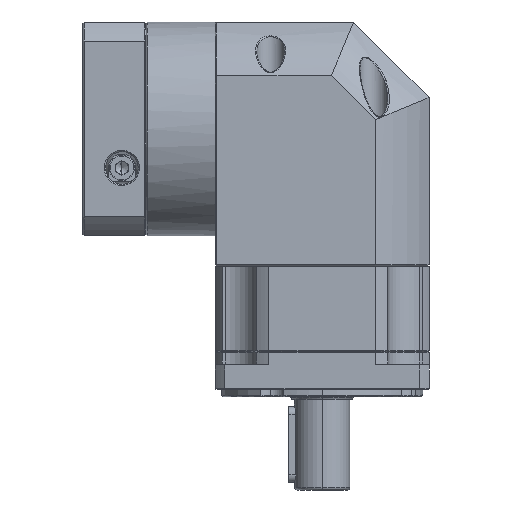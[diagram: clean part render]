
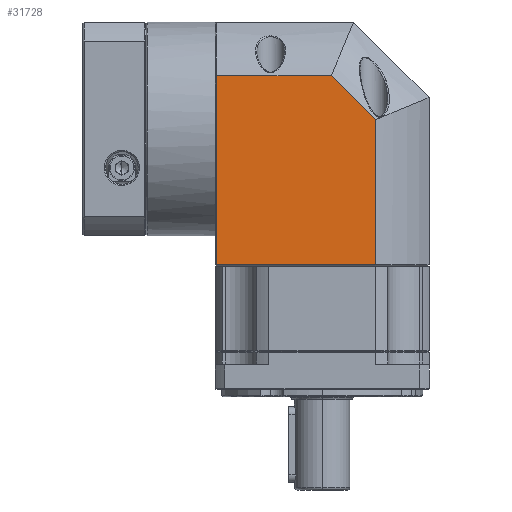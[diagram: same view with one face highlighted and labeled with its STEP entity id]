
A CAD part, left-side view. The second image highlights one B-rep face of the part: STEP entity #31728.
In plain terms, the highlighted planar face has unit normal (-1, 0, 0).
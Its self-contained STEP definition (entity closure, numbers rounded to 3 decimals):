
#5016 = ORIENTED_EDGE ( 'NONE', *, *, #120924, .F. ) ;
#12175 = CARTESIAN_POINT ( 'NONE',  ( -102.869, -0.075, 72.021 ) ) ;
#13969 = LINE ( 'NONE', #12175, #52545 ) ;
#14043 = EDGE_LOOP ( 'NONE', ( #99829, #5016, #90180, #108371, #82236 ) ) ;
#14217 = CARTESIAN_POINT ( 'NONE',  ( -102.869, 63.639, 47.234 ) ) ;
#18158 = EDGE_CURVE ( 'NONE', #44373, #114818, #64940, .T. ) ;
#18648 = CARTESIAN_POINT ( 'NONE',  ( -102.869, 63.139, 68.521 ) ) ;
#22732 = VERTEX_POINT ( 'NONE', #115053 ) ;
#25144 = CARTESIAN_POINT ( 'NONE',  ( -102.869, 63.139, -27.979 ) ) ;
#27680 = EDGE_CURVE ( 'NONE', #126006, #22732, #43989, .T. ) ;
#31187 = VECTOR ( 'NONE', #93795, 1000. ) ;
#31728 = ADVANCED_FACE ( 'NONE', ( #127706 ), #99268, .F. ) ;
#43989 = LINE ( 'NONE', #92857, #126491 ) ;
#44373 = VERTEX_POINT ( 'NONE', #109853 ) ;
#46133 = CARTESIAN_POINT ( 'NONE',  ( -102.869, -0.075, 29.703 ) ) ;
#48123 = VECTOR ( 'NONE', #132589, 1000. ) ;
#52545 = VECTOR ( 'NONE', #56269, 1000. ) ;
#55791 = CARTESIAN_POINT ( 'NONE',  ( -102.869, 17.456, 47.234 ) ) ;
#56269 = DIRECTION ( 'NONE',  ( 0., 0., -1. ) ) ;
#58298 = DIRECTION ( 'NONE',  ( 1., 0., 0. ) ) ;
#59077 = VERTEX_POINT ( 'NONE', #73848 ) ;
#64940 = LINE ( 'NONE', #55791, #90148 ) ;
#71678 = DIRECTION ( 'NONE',  ( 0., -1., 0. ) ) ;
#73848 = CARTESIAN_POINT ( 'NONE',  ( -102.869, 63.139, 47.234 ) ) ;
#79129 = EDGE_CURVE ( 'NONE', #59077, #44373, #80121, .T. ) ;
#79938 = CARTESIAN_POINT ( 'NONE',  ( -102.869, 63.639, 68.521 ) ) ;
#80121 = LINE ( 'NONE', #14217, #48123 ) ;
#82236 = ORIENTED_EDGE ( 'NONE', *, *, #127442, .F. ) ;
#90148 = VECTOR ( 'NONE', #105662, 1000. ) ;
#90180 = ORIENTED_EDGE ( 'NONE', *, *, #18158, .F. ) ;
#92857 = CARTESIAN_POINT ( 'NONE',  ( -102.869, 63.639, -27.979 ) ) ;
#93795 = DIRECTION ( 'NONE',  ( 0., 0., 1. ) ) ;
#99268 = PLANE ( 'NONE',  #136605 ) ;
#99829 = ORIENTED_EDGE ( 'NONE', *, *, #27680, .T. ) ;
#105662 = DIRECTION ( 'NONE',  ( 0., -0.707, -0.707 ) ) ;
#108371 = ORIENTED_EDGE ( 'NONE', *, *, #79129, .F. ) ;
#109853 = CARTESIAN_POINT ( 'NONE',  ( -102.869, 17.456, 47.234 ) ) ;
#114818 = VERTEX_POINT ( 'NONE', #46133 ) ;
#115053 = CARTESIAN_POINT ( 'NONE',  ( -102.869, -0.075, -27.979 ) ) ;
#120924 = EDGE_CURVE ( 'NONE', #114818, #22732, #13969, .T. ) ;
#123658 = DIRECTION ( 'NONE',  ( 0., 1., 0. ) ) ;
#126006 = VERTEX_POINT ( 'NONE', #25144 ) ;
#126491 = VECTOR ( 'NONE', #71678, 1000. ) ;
#127442 = EDGE_CURVE ( 'NONE', #126006, #59077, #135484, .T. ) ;
#127706 = FACE_OUTER_BOUND ( 'NONE', #14043, .T. ) ;
#132589 = DIRECTION ( 'NONE',  ( 0., -1., 0. ) ) ;
#135484 = LINE ( 'NONE', #18648, #31187 ) ;
#136605 = AXIS2_PLACEMENT_3D ( 'NONE', #79938, #58298, #123658 ) ;
